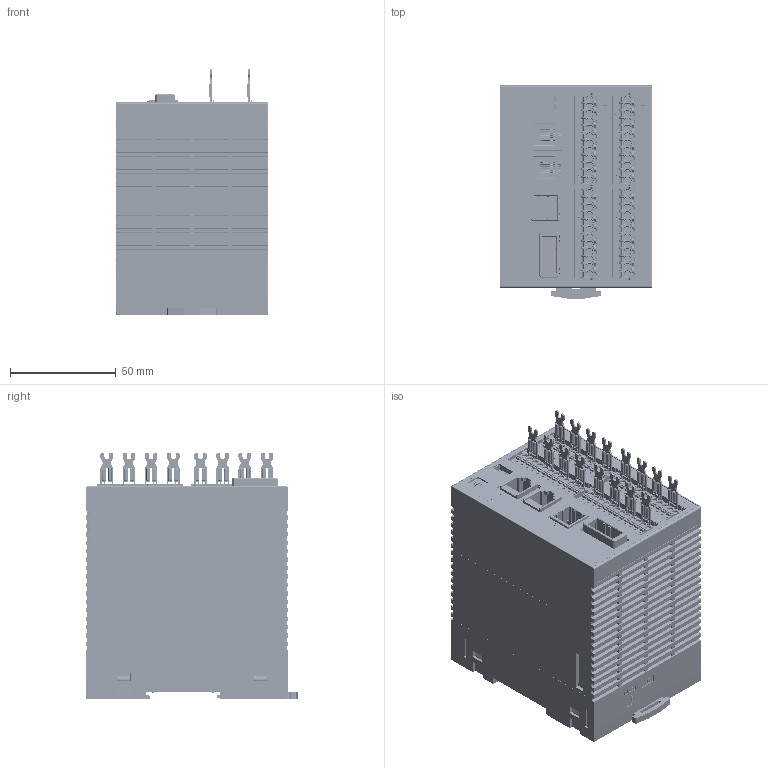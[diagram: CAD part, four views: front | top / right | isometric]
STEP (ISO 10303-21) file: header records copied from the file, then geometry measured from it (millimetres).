
FILE_DESCRIPTION (( 'STEP AP203' ), '1' );
FILE_NAME ('SRJ(J-TI-A)コネクタあり_WEB.STEP', '2017-05-17T09:31:00', ( 'a' ), ( 'Microsoft' ), 'SwSTEP 2.0', 'SolidWorks 2016', '' );
FILE_SCHEMA (( 'CONFIG_CONTROL_DESIGN' ));
Products named in the file (4): SRJ(J-TI-A基本設計)_WEB; KSRZ-54(1)_WEB_デフォルト; 2091-1103_web_2091-1103; SRJ(J-TI-A)コネクタあり_WEB
Assembly tree (18 placements, depth 2):
  SRJ(J-TI-A)コネクタあり_WEB
    SRJ(J-TI-A基本設計)_WEB
    KSRZ-54(1)_WEB_デフォルト
    2091-1103_web_2091-1103  x16
Bounding box: 72 x 100.86 x 117 mm (x, y, z)
Volume: 761215.4 mm3; surface area: 129070.5 mm2
Topology: 19 solids, 24 shells, 13442 faces, 37589 edges, 24624 vertices
Faces by surface type: plane 9662, cylinder 2330, bspline 1015, cone 353, torus 78, sphere 4
Entity records: 314487 total; most frequent: CARTESIAN_POINT 94334, ORIENTED_EDGE 49054, DIRECTION 39480, EDGE_CURVE 24527, LINE 20190, VECTOR 20190, VERTEX_POINT 16186, AXIS2_PLACEMENT_3D 9645
